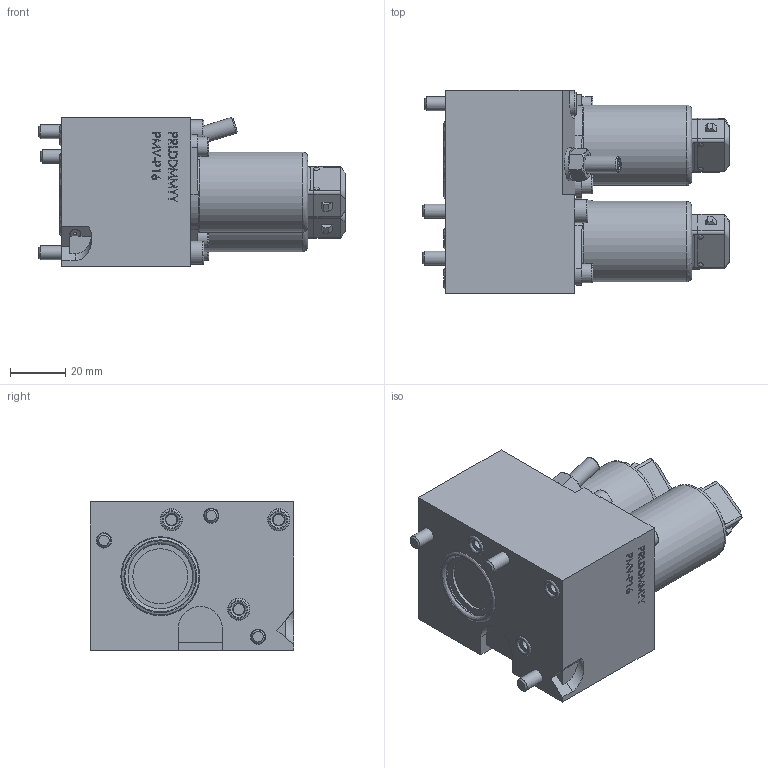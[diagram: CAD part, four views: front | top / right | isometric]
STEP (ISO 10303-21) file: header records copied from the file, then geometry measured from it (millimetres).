
FILE_DESCRIPTION (( 'STEP AP214' ), '1' );
FILE_NAME ('0301750.STEP', '2022-06-22T13:34:36', ( '' ), ( '' ), 'SwSTEP 2.0', 'SolidWorks 2020', '' );
FILE_SCHEMA (( 'AUTOMOTIVE_DESIGN' ));
Length unit declared in the file: millimetre
Products named in the file (12): 0290158_010; 0291147_002; 0074697_246.1510; 0284977_002; 0283782_001; 0074748_246.2156; 0283782_008; 0290158_001; 0074748_246.2151; 0301750; 0073842_153.2301; 0074669_079.3160
Assembly tree (22 placements, depth 2):
  0301750
    0284977_002
    0074748_246.2156  x2
    0074748_246.2151
    0073842_153.2301
    0074669_079.3160
    0290158_010
    0290158_001  x3
    0283782_001  x5
    0283782_008
    0291147_002  x2
    0074697_246.1510  x4
Bounding box: 111.4 x 74 x 54.16 mm (x, y, z)
Volume: 222333.8 mm3; surface area: 66735.5 mm2
Topology: 28 solids, 30 shells, 1176 faces, 2873 edges, 1849 vertices
Faces by surface type: plane 569, cylinder 221, cone 208, bspline 162, torus 16
Full cylindrical faces by diameter (mm): 0.6 x6, 1.1 x6, 2.2 x2, 2.4 x16, 3.3 x4, 3.5 x6, 3.767 x6, 3.8 x2, 4 x12, 4.47 x3, 4.5 x4, 5 x5, 5.5 x3, 6 x1, 6.162 x2, 6.9 x2, 7 x4, 7.8 x3, 8 x2, 8.03 x3, 8.314 x2, 8.5 x3, 8.9 x2, 9 x4, 9.1 x4, 9.5 x2, 9.9 x2, 10.1 x2, 11.1 x4, 11.5 x2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
Entity records: 47923 total; most frequent: CARTESIAN_POINT 30883, ORIENTED_EDGE 3038, DIRECTION 2814, EDGE_CURVE 1519, VERTEX_POINT 1096, EDGE_LOOP 1039, AXIS2_PLACEMENT_3D 983, FACE_OUTER_BOUND 859
